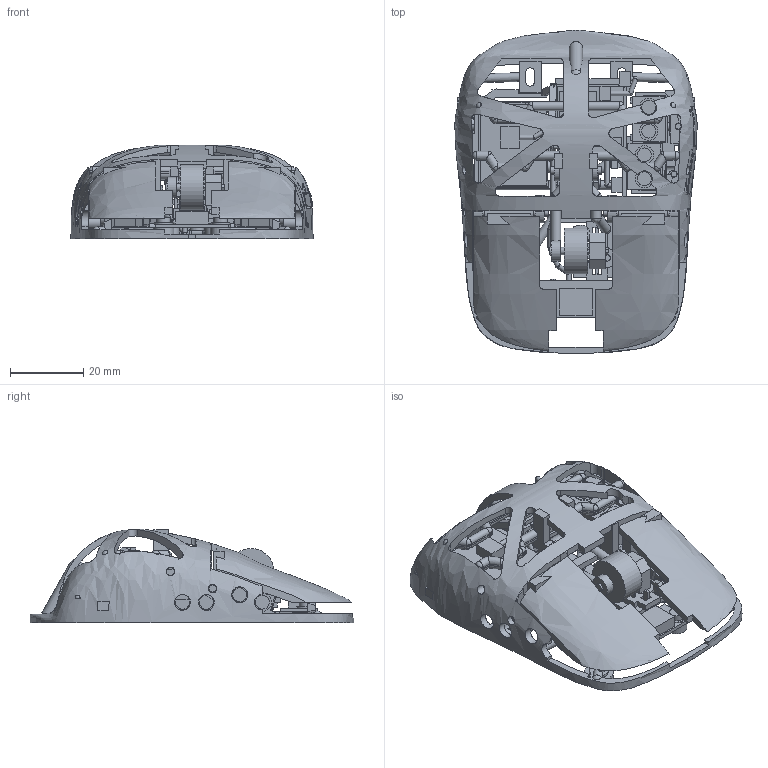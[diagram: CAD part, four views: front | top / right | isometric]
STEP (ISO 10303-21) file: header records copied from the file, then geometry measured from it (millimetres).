
FILE_DESCRIPTION(('Open CASCADE Model'),'2;1');
FILE_NAME('Open CASCADE Shape Model','2026-10-17T17:24:12',('Author'),( 'Open CASCADE'),'Open CASCADE STEP processor 7.9','Open CASCADE 7.9' ,'Unknown');
FILE_SCHEMA(('AUTOMOTIVE_DESIGN { 1 0 10303 214 1 1 1 1 }'));
Length unit declared in the file: millimetre
Products named in the file (98): Quietmirror_L2_H_EST; BODY; LEFT_KEY; RIGHT_KEY; SIDE_FRONT_KEY; SIDE_FRONT_KEY_SWITCH_CLAMP; SIDE_REAR_KEY; SIDE_REAR_KEY_SWITCH_CLAMP; WHEEL; WHEEL_CARRIER; LEFT_KEY_STEEL_PIN; LEFT_KEY_M2_SWITCH_1_BOLT; LEFT_KEY_M2_SWITCH_1_WASHER_NUT; LEFT_KEY_M2_SWITCH_1_WASHER_HEAD; LEFT_KEY_M2_SWITCH_1_NUT; LEFT_KEY_M2_SWITCH_2_BOLT; LEFT_KEY_M2_SWITCH_2_WASHER_NUT; LEFT_KEY_M2_SWITCH_2_WASHER_HEAD; LEFT_KEY_M2_SWITCH_2_NUT; SWITCH_LEFT; RIGHT_KEY_STEEL_PIN; RIGHT_KEY_M2_SWITCH_1_BOLT; RIGHT_KEY_M2_SWITCH_1_WASHER_NUT; RIGHT_KEY_M2_SWITCH_1_WASHER_HEAD; RIGHT_KEY_M2_SWITCH_1_NUT; RIGHT_KEY_M2_SWITCH_2_BOLT; RIGHT_KEY_M2_SWITCH_2_WASHER_NUT; RIGHT_KEY_M2_SWITCH_2_WASHER_HEAD; RIGHT_KEY_M2_SWITCH_2_NUT; SWITCH_RIGHT; SIDE_FRONT_KEY_CAPTURE_PIN; SIDE_FRONT_KEY_M2_SWITCH_1_BOLT; SIDE_FRONT_KEY_M2_SWITCH_1_WASHER_NUT; SIDE_FRONT_KEY_M2_SWITCH_1_WASHER_HEAD; SIDE_FRONT_KEY_M2_SWITCH_1_NUT; SIDE_FRONT_KEY_M2_SWITCH_2_BOLT; SIDE_FRONT_KEY_M2_SWITCH_2_WASHER_NUT; SIDE_FRONT_KEY_M2_SWITCH_2_WASHER_HEAD; SIDE_FRONT_KEY_M2_SWITCH_2_NUT; SWITCH_SIDE_FRONT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
Assembly tree (97 placements, depth 2):
  Quietmirror_L2_H_EST
    BODY
    LEFT_KEY
    RIGHT_KEY
    SIDE_FRONT_KEY
    SIDE_FRONT_KEY_SWITCH_CLAMP
    SIDE_REAR_KEY
    SIDE_REAR_KEY_SWITCH_CLAMP
    WHEEL
    WHEEL_CARRIER
    LEFT_KEY_STEEL_PIN
    LEFT_KEY_M2_SWITCH_1_BOLT
    LEFT_KEY_M2_SWITCH_1_WASHER_NUT
    LEFT_KEY_M2_SWITCH_1_WASHER_HEAD
    LEFT_KEY_M2_SWITCH_1_NUT
    LEFT_KEY_M2_SWITCH_2_BOLT
    LEFT_KEY_M2_SWITCH_2_WASHER_NUT
    LEFT_KEY_M2_SWITCH_2_WASHER_HEAD
    LEFT_KEY_M2_SWITCH_2_NUT
    SWITCH_LEFT
    RIGHT_KEY_STEEL_PIN
    RIGHT_KEY_M2_SWITCH_1_BOLT
    RIGHT_KEY_M2_SWITCH_1_WASHER_NUT
    RIGHT_KEY_M2_SWITCH_1_WASHER_HEAD
    RIGHT_KEY_M2_SWITCH_1_NUT
    RIGHT_KEY_M2_SWITCH_2_BOLT
    RIGHT_KEY_M2_SWITCH_2_WASHER_NUT
    RIGHT_KEY_M2_SWITCH_2_WASHER_HEAD
    RIGHT_KEY_M2_SWITCH_2_NUT
    SWITCH_RIGHT
    SIDE_FRONT_KEY_CAPTURE_PIN
    SIDE_FRONT_KEY_M2_SWITCH_1_BOLT
    SIDE_FRONT_KEY_M2_SWITCH_1_WASHER_NUT
    SIDE_FRONT_KEY_M2_SWITCH_1_WASHER_HEAD
    SIDE_FRONT_KEY_M2_SWITCH_1_NUT
    SIDE_FRONT_KEY_M2_SWITCH_2_BOLT
    SIDE_FRONT_KEY_M2_SWITCH_2_WASHER_NUT
    SIDE_FRONT_KEY_M2_SWITCH_2_WASHER_HEAD
    SIDE_FRONT_KEY_M2_SWITCH_2_NUT
    SWITCH_SIDE_FRONT
    SIDE_REAR_KEY_CAPTURE_PIN
    SIDE_REAR_KEY_M2_SWITCH_1_BOLT
    SIDE_REAR_KEY_M2_SWITCH_1_WASHER_NUT
    SIDE_REAR_KEY_M2_SWITCH_1_WASHER_HEAD
    SIDE_REAR_KEY_M2_SWITCH_1_NUT
    SIDE_REAR_KEY_M2_SWITCH_2_BOLT
    SIDE_REAR_KEY_M2_SWITCH_2_WASHER_NUT
    SIDE_REAR_KEY_M2_SWITCH_2_WASHER_HEAD
    SIDE_REAR_KEY_M2_SWITCH_2_NUT
    SWITCH_SIDE_REAR
    ENCODER_EC10E_HOUSING
    ENCODER_EC10E_ROTOR
    WHEEL_CARRIER_STEEL_PIN
    SWITCH_MIDDLE
    WHEEL_M2_SWITCH_1_BOLT
    WHEEL_M2_SWITCH_1_WASHER_NUT
    WHEEL_M2_SWITCH_1_WASHER_HEAD
    WHEEL_M2_SWITCH_1_NUT
    WHEEL_M2_SWITCH_2_BOLT
    WHEEL_M2_SWITCH_2_WASHER_NUT
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Bounding box: 66.07 x 88.24 x 25.47 mm (x, y, z)
Volume: 29269.9 mm3; surface area: 40157.5 mm2
Topology: 97 solids, 97 shells, 2273 faces, 6003 edges, 3873 vertices
Faces by surface type: plane 1639, cylinder 466, sphere 126, bspline 42
Full cylindrical faces by diameter (mm): 1 x4, 1.2 x11, 1.25 x6, 1.3 x12, 1.5 x2, 1.7 x6, 1.72 x3, 2 x40, 2.2 x24, 2.3 x2, 2.35 x14, 2.4 x28, 2.5 x3, 2.6 x11, 2.7 x7, 2.98 x1, 3.2 x3, 3.8 x14, 4.2 x2, 4.3 x3, 5 x22, 5.2 x4, 5.3 x2, 12.5 x1
Entity records: 428786 total; most frequent: CARTESIAN_POINT 311712, DIRECTION 20248, LINE 12222, VECTOR 12222, ORIENTED_EDGE 11888, PCURVE 11888, DEFINITIONAL_REPRESENTATION 11888, EDGE_CURVE 5944
